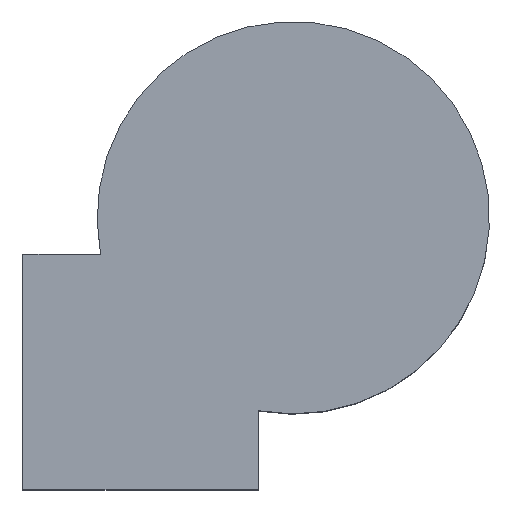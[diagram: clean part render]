
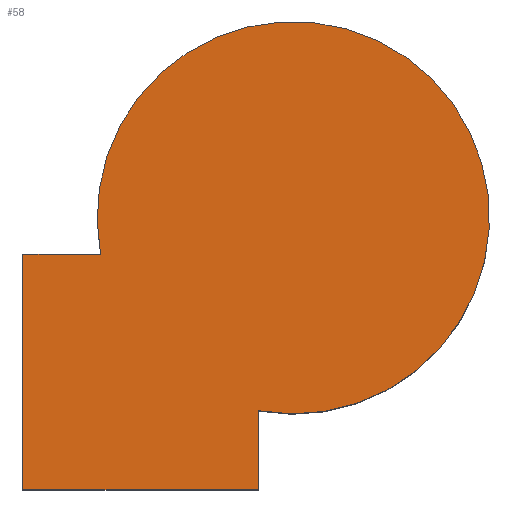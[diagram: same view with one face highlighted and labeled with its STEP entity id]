
A CAD part, top view. The second image highlights one B-rep face of the part: STEP entity #58.
In plain terms, the highlighted planar face has unit normal (0, 0, 1).
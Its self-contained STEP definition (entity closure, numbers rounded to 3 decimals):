
#12 = VECTOR ( 'NONE', #150, 1000. ) ;
#13 = ORIENTED_EDGE ( 'NONE', *, *, #189, .T. ) ;
#15 = PLANE ( 'NONE',  #120 ) ;
#18 = DIRECTION ( 'NONE',  ( 0., -1., 0. ) ) ;
#20 = CARTESIAN_POINT ( 'NONE',  ( 0., 0., 0. ) ) ;
#24 = DIRECTION ( 'NONE',  ( 0., 0., 1. ) ) ;
#28 = EDGE_CURVE ( 'NONE', #214, #30, #68, .T. ) ;
#30 = VERTEX_POINT ( 'NONE', #215 ) ;
#38 = LINE ( 'NONE', #77, #54 ) ;
#47 = VERTEX_POINT ( 'NONE', #137 ) ;
#48 = DIRECTION ( 'NONE',  ( 1., 0., 0. ) ) ;
#50 = EDGE_CURVE ( 'NONE', #262, #47, #162, .T. ) ;
#54 = VECTOR ( 'NONE', #18, 1000. ) ;
#55 = FACE_OUTER_BOUND ( 'NONE', #188, .T. ) ;
#58 = ADVANCED_FACE ( 'NONE', ( #55 ), #15, .T. ) ;
#68 = LINE ( 'NONE', #153, #86 ) ;
#77 = CARTESIAN_POINT ( 'NONE',  ( 0., 9.525, 0. ) ) ;
#81 = DIRECTION ( 'NONE',  ( 1., 0., 0. ) ) ;
#86 = VECTOR ( 'NONE', #48, 1000. ) ;
#88 = EDGE_CURVE ( 'NONE', #47, #214, #38, .T. ) ;
#91 = AXIS2_PLACEMENT_3D ( 'NONE', #187, #24, #81 ) ;
#92 = VERTEX_POINT ( 'NONE', #271 ) ;
#109 = ORIENTED_EDGE ( 'NONE', *, *, #88, .T. ) ;
#111 = ORIENTED_EDGE ( 'NONE', *, *, #28, .T. ) ;
#112 = ORIENTED_EDGE ( 'NONE', *, *, #164, .T. ) ;
#120 = AXIS2_PLACEMENT_3D ( 'NONE', #225, #270, #177 ) ;
#137 = CARTESIAN_POINT ( 'NONE',  ( 0., 9.525, 0. ) ) ;
#150 = DIRECTION ( 'NONE',  ( 0., 1., 0. ) ) ;
#151 = CIRCLE ( 'NONE', #91, 7.937 ) ;
#153 = CARTESIAN_POINT ( 'NONE',  ( 0., 0., 0. ) ) ;
#154 = ORIENTED_EDGE ( 'NONE', *, *, #50, .T. ) ;
#162 = LINE ( 'NONE', #228, #242 ) ;
#164 = EDGE_CURVE ( 'NONE', #92, #262, #151, .T. ) ;
#174 = DIRECTION ( 'NONE',  ( -1., 0., 0. ) ) ;
#177 = DIRECTION ( 'NONE',  ( 1., 0., 0. ) ) ;
#187 = CARTESIAN_POINT ( 'NONE',  ( 10.943, 10.999, 0. ) ) ;
#188 = EDGE_LOOP ( 'NONE', ( #112, #154, #109, #111, #13 ) ) ;
#189 = EDGE_CURVE ( 'NONE', #30, #92, #257, .T. ) ;
#190 = CARTESIAN_POINT ( 'NONE',  ( 3.144, 9.525, 0. ) ) ;
#214 = VERTEX_POINT ( 'NONE', #20 ) ;
#215 = CARTESIAN_POINT ( 'NONE',  ( 9.525, 0., 0. ) ) ;
#225 = CARTESIAN_POINT ( 'NONE',  ( 10.943, 10.999, 0. ) ) ;
#228 = CARTESIAN_POINT ( 'NONE',  ( 3.144, 9.525, 0. ) ) ;
#242 = VECTOR ( 'NONE', #174, 1000. ) ;
#251 = CARTESIAN_POINT ( 'NONE',  ( 9.525, 0., 0. ) ) ;
#257 = LINE ( 'NONE', #251, #12 ) ;
#262 = VERTEX_POINT ( 'NONE', #190 ) ;
#270 = DIRECTION ( 'NONE',  ( 0., 0., 1. ) ) ;
#271 = CARTESIAN_POINT ( 'NONE',  ( 9.525, 3.189, 0. ) ) ;
